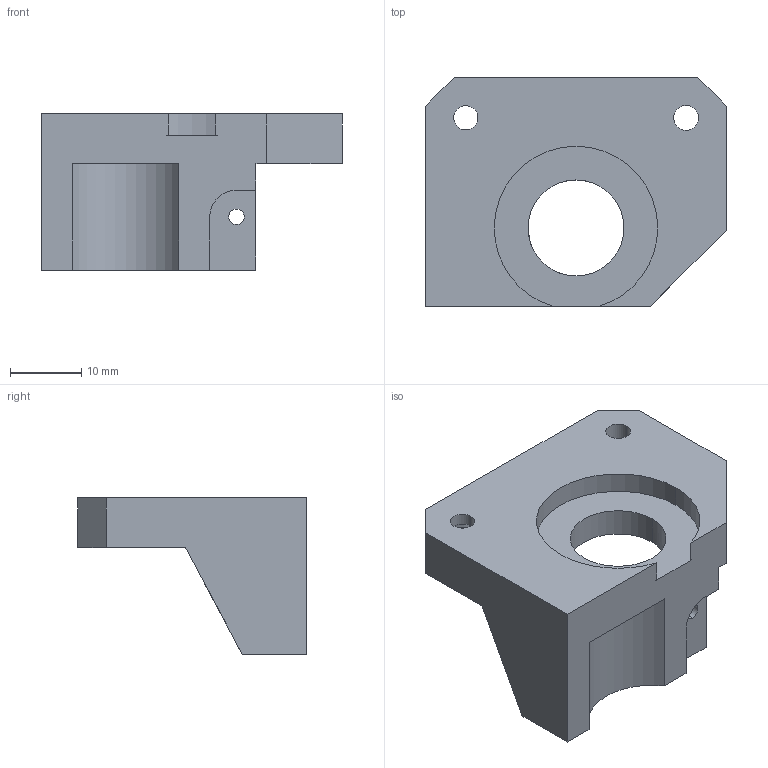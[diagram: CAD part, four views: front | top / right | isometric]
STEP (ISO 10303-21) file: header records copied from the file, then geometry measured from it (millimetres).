
FILE_DESCRIPTION (( 'STEP AP203' ), '1' );
FILE_NAME ('2X_Extruder_Base_R.STEP', '2014-01-31T05:13:23', ( 'Windows' ), ( '' ), 'SwSTEP 2.0', 'SolidWorks 2013', '' );
FILE_SCHEMA (( 'CONFIG_CONTROL_DESIGN' ));
Length unit declared in the file: millimetre
Products named in the file (1): 2X_Extruder_Base_R
Bounding box: 42.3 x 32.15 x 22 mm (x, y, z)
Volume: 9708.1 mm3; surface area: 5223.6 mm2
Topology: 1 solids, 1 shells, 51 faces, 138 edges, 89 vertices
Faces by surface type: plane 24, cylinder 20, cone 7
Entity records: 1741 total; most frequent: CARTESIAN_POINT 342, DIRECTION 277, ORIENTED_EDGE 276, EDGE_CURVE 138, AXIS2_PLACEMENT_3D 96, VERTEX_POINT 89, LINE 85, VECTOR 85
